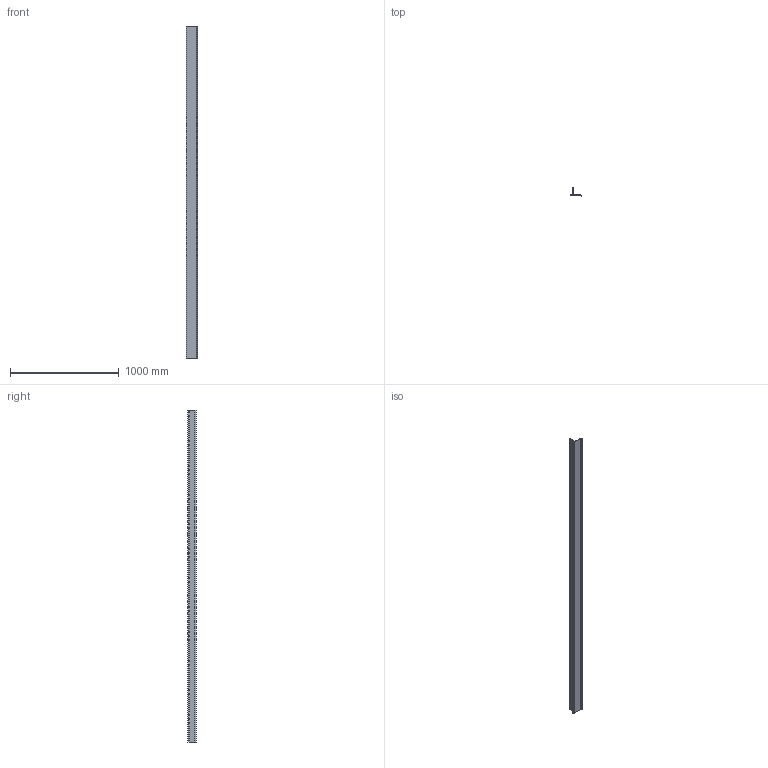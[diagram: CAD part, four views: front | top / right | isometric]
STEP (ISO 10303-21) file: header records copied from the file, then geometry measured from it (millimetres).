
FILE_DESCRIPTION(/* description */ (''),/* implementation_level */ '2;1');
FILE_NAME(/* name */ 'M56I.120.STEP',/* time_stamp */ '2026-02-03T15:36:42-05:00',/* author */ ('rodrigoangel.torresp'),/* organization */ (''),/* preprocessor_version */ 'ST-DEVELOPER v20',/* originating_system */ 'Autodesk Inventor 2025',/* authorisation */ '');
FILE_SCHEMA (('AUTOMOTIVE_DESIGN { 1 0 10303 214 3 1 1 }'));
Length unit declared in the file: inch
Products named in the file (1): M56I
Bounding box: 106.33 x 75.44 x 3048 mm (x, y, z)
Volume: 418002.4 mm3; surface area: 1650783.8 mm2
Topology: 1 solids, 1 shells, 346 faces, 1032 edges, 688 vertices
Faces by surface type: plane 176, cylinder 170
Entity records: 12081 total; most frequent: CARTESIAN_POINT 2067, DIRECTION 2066, ORIENTED_EDGE 2064, EDGE_CURVE 1032, LINE 692, VECTOR 692, VERTEX_POINT 688, AXIS2_PLACEMENT_3D 687
